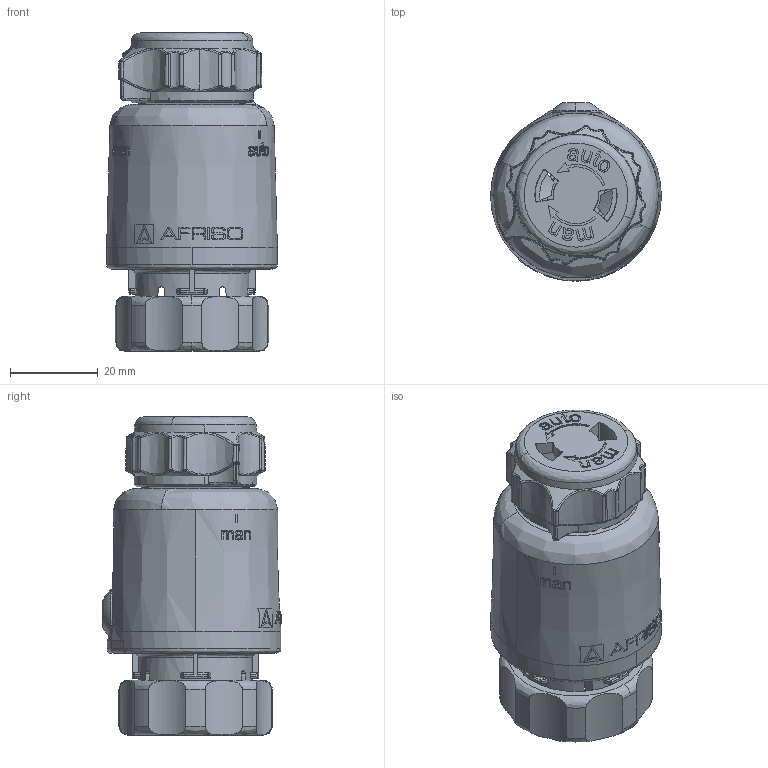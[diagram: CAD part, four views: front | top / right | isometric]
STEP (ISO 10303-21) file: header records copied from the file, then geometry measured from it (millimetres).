
FILE_DESCRIPTION (( 'STEP AP214' ), '1' );
FILE_NAME ('79015_TSA-02_FO.STEP', '2022-04-20T13:06:01', ( '' ), ( '' ), 'SwSTEP 2.0', 'SolidWorks 2021', '' );
FILE_SCHEMA (( 'AUTOMOTIVE_DESIGN' ));
Length unit declared in the file: millimetre
Products named in the file (12): 05 00 710101_Haube TSA-02; Logo_3; Logo_2; Haube bedruckt_Baugruppe; 05 00 710027_Kabelt_X_FClle f_X_FCr Thermoantrieb; 05 00 710145_Handrad TSA FO; 05 00 710014_Geh_X_E4use Unterteil TSA; Logo; 05 00 710044_Mutter M30x1,5 H=12,5; 79014_Stellantr.TSA-02 FO 230V; 79015_TSA-02_FO; Handradstellung auf manuell_Baugruppe
Assembly tree (11 placements, depth 4):
  79015_TSA-02_FO
    79014_Stellantr.TSA-02 FO 230V
      05 00 710027_Kabelt_X_FClle f_X_FCr Thermoantrieb
      05 00 710014_Geh_X_E4use Unterteil TSA
      05 00 710044_Mutter M30x1,5 H=12,5
      Haube bedruckt_Baugruppe
        Logo
        Logo_2
        Logo_3
        05 00 710101_Haube TSA-02
      Handradstellung auf manuell_Baugruppe
        05 00 710145_Handrad TSA FO
Bounding box: 39 x 40.78 x 72.71 mm (x, y, z)
Volume: 27271.7 mm3; surface area: 27488.7 mm2
Topology: 22 solids, 22 shells, 1350 faces, 3675 edges, 2371 vertices
Faces by surface type: plane 508, cylinder 363, bspline 304, cone 173, torus 2
Entity records: 68315 total; most frequent: CARTESIAN_POINT 26209, ORIENTED_EDGE 7340, DIRECTION 5312, EDGE_CURVE 3670, VERTEX_POINT 2370, AXIS2_PLACEMENT_3D 1888, VECTOR 1536, LINE 1536
